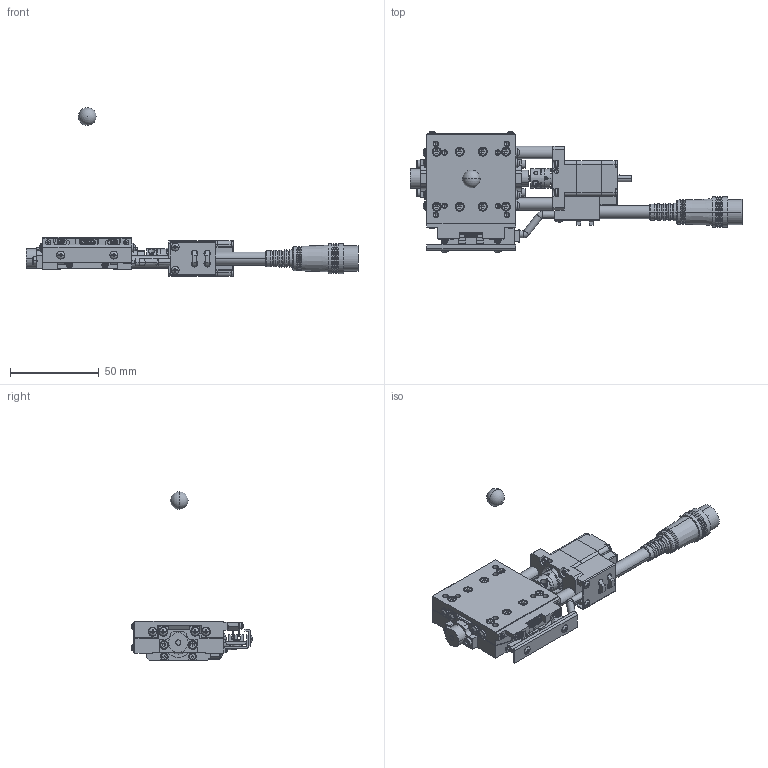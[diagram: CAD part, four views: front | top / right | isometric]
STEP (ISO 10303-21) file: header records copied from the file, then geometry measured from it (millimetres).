
FILE_DESCRIPTION (( 'STEP AP203' ), '1' );
FILE_NAME ('SA05A-R2M01-R.STEP', '2019-12-02T07:26:46', ( '' ), ( '' ), 'SwSTEP 2.0', 'SolidWorks 2018', '' );
FILE_SCHEMA (( 'CONFIG_CONTROL_DESIGN' ));
Length unit declared in the file: millimetre
Products named in the file (8): SA05A-R2M01-R; base; table; base-Part-2; base-Part-1; table-Part-1; base-Part-3; rotation center
Assembly tree (7 placements, depth 3):
  SA05A-R2M01-R
    table
      table-Part-1
    base
      base-Part-1
      base-Part-2
      base-Part-3
    rotation center
Bounding box: 187 x 67.96 x 95 mm (x, y, z)
Volume: 76163.5 mm3; surface area: 39030.2 mm2
Topology: 5 solids, 5 shells, 2468 faces, 6223 edges, 3867 vertices
Faces by surface type: plane 1554, cylinder 534, cone 190, torus 134, sphere 50, bspline 6
Entity records: 76427 total; most frequent: CARTESIAN_POINT 15495, DIRECTION 12956, ORIENTED_EDGE 12284, EDGE_CURVE 6142, AXIS2_PLACEMENT_3D 4557, VERTEX_POINT 3860, LINE 3842, VECTOR 3842
